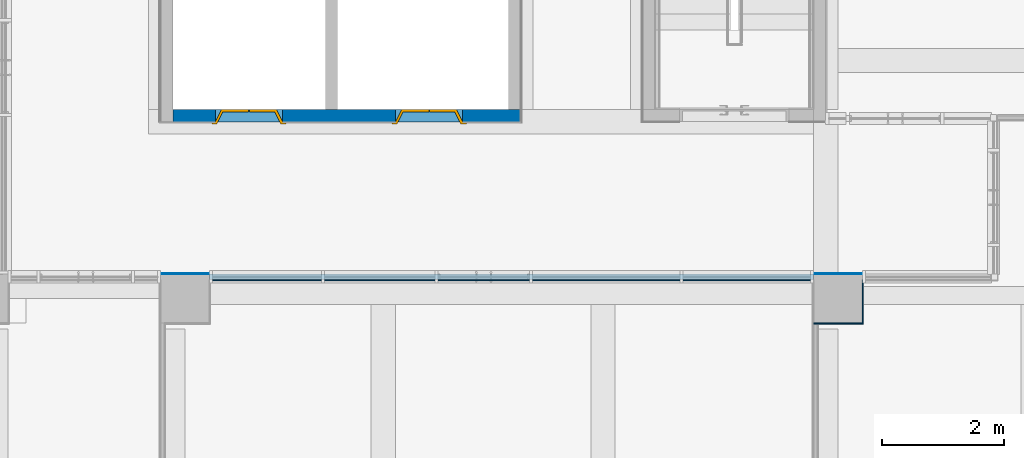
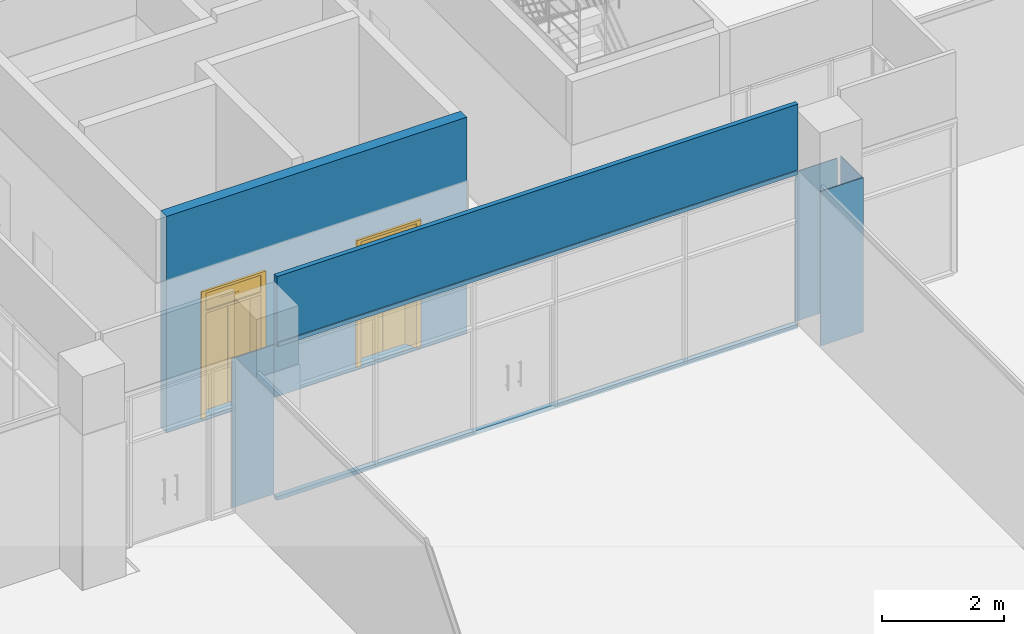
# One storey, part 47 of 74: 6 walls, 2 doors, 8 openings.
"""IFC2X3 building model written with IfcOpenShell, lengths in millimetres."""

from ifc_helpers import new_model, entity, si_unit, converted_unit, derived_unit, direction, frame, frame_2d, origin, origin_2d_with_axis, place, context, subcontext, project, spatial, polyline, rectangle, extrude, clip, bounded_halfspace, faceted_brep, source, transform, mapped, material, material_list, layer, layer_set, layer_usage, type_object, type_shapes, element, fill, save


model = new_model("IFC2X3")

# Units and contexts
model_context = context("Model", 3, precision=0.01, world=origin(), true_north=direction((6.123031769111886e-17, 1.0)))
body_context = subcontext(model_context, "Body", "Model", "MODEL_VIEW")
ifc_project = project(units=[si_unit("LENGTHUNIT", "METRE", prefix="MILLI"), si_unit("AREAUNIT", "SQUARE_METRE"), si_unit("VOLUMEUNIT", "CUBIC_METRE"), converted_unit("PLANEANGLEUNIT", "DEGREE", entity("IfcRatioMeasure", 0.017453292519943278), si_unit("PLANEANGLEUNIT", "RADIAN"), dimensions=[0, 0, 0, 0, 0, 0, 0]), si_unit("MASSUNIT", "GRAM", prefix="KILO"), derived_unit("MASSDENSITYUNIT", [(si_unit("MASSUNIT", "GRAM", prefix="KILO"), 1), (si_unit("LENGTHUNIT", "METRE"), -3)]), derived_unit("MOMENTOFINERTIAUNIT", [(si_unit("LENGTHUNIT", "METRE"), 4)]), si_unit("TIMEUNIT", "SECOND"), si_unit("FREQUENCYUNIT", "HERTZ"), si_unit("THERMODYNAMICTEMPERATUREUNIT", "DEGREE_CELSIUS"), derived_unit("THERMALTRANSMITTANCEUNIT", [(si_unit("MASSUNIT", "GRAM", prefix="KILO"), 1), (si_unit("THERMODYNAMICTEMPERATUREUNIT", "KELVIN"), -1), (si_unit("TIMEUNIT", "SECOND"), -3)]), derived_unit("VOLUMETRICFLOWRATEUNIT", [(si_unit("LENGTHUNIT", "METRE"), 3), (si_unit("TIMEUNIT", "SECOND"), -1)]), derived_unit("MASSFLOWRATEUNIT", [(si_unit("MASSUNIT", "GRAM", prefix="KILO"), 1), (si_unit("TIMEUNIT", "SECOND"), -1)]), derived_unit("ROTATIONALFREQUENCYUNIT", [(si_unit("TIMEUNIT", "SECOND"), -1)]), si_unit("ELECTRICCURRENTUNIT", "AMPERE"), si_unit("ELECTRICVOLTAGEUNIT", "VOLT"), si_unit("POWERUNIT", "WATT"), si_unit("FORCEUNIT", "NEWTON", prefix="KILO"), si_unit("ILLUMINANCEUNIT", "LUX"), si_unit("LUMINOUSFLUXUNIT", "LUMEN"), si_unit("LUMINOUSINTENSITYUNIT", "CANDELA"), derived_unit("USERDEFINED", [(si_unit("MASSUNIT", "GRAM", prefix="KILO"), -1), (si_unit("LENGTHUNIT", "METRE"), -2), (si_unit("TIMEUNIT", "SECOND"), 3), (si_unit("LUMINOUSFLUXUNIT", "LUMEN"), 1)]), derived_unit("SOUNDPOWERUNIT", [(si_unit("MASSUNIT", "GRAM", prefix="KILO"), 1), (si_unit("LENGTHUNIT", "METRE"), 2), (si_unit("TIMEUNIT", "SECOND"), -3)]), derived_unit("SOUNDPRESSUREUNIT", [(si_unit("MASSUNIT", "GRAM", prefix="KILO"), 1), (si_unit("LENGTHUNIT", "METRE"), -1), (si_unit("TIMEUNIT", "SECOND"), -2)]), derived_unit("LINEARVELOCITYUNIT", [(si_unit("LENGTHUNIT", "METRE"), 1), (si_unit("TIMEUNIT", "SECOND"), -1)]), si_unit("PRESSUREUNIT", "PASCAL"), derived_unit("USERDEFINED", [(si_unit("LENGTHUNIT", "METRE"), -2), (si_unit("MASSUNIT", "GRAM", prefix="KILO"), 1), (si_unit("TIMEUNIT", "SECOND"), -2)]), derived_unit("LINEARFORCEUNIT", [(si_unit("MASSUNIT", "GRAM", prefix="KILO"), 1), (si_unit("LENGTHUNIT", "METRE"), 1), (si_unit("TIMEUNIT", "SECOND"), -2), (si_unit("LENGTHUNIT", "METRE"), -1)]), derived_unit("PLANARFORCEUNIT", [(si_unit("MASSUNIT", "GRAM", prefix="KILO"), 1), (si_unit("LENGTHUNIT", "METRE"), 1), (si_unit("TIMEUNIT", "SECOND"), -2), (si_unit("LENGTHUNIT", "METRE"), -2)])], contexts=[model_context])

# Site, building, storey
site_placement = place(None, frame((-14167.972527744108, -657.2125860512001, 0.0)))
site = spatial("IfcSite", under=ifc_project, at=site_placement, Name="Default", CompositionType="ELEMENT")
building_placement = place(site_placement, origin())
building = spatial("IfcBuilding", under=site, at=building_placement, Name="Sample Building", CompositionType="ELEMENT")
storey_placement = place(building_placement, frame((0.0, 0.0, 4800.0)))
storey = spatial("IfcBuildingStorey", under=building, at=storey_placement, Name="지상 2층", CompositionType="ELEMENT", Elevation=4800.000000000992)

# Wall, openings, doors
ifc_material_1 = material(Name="KBIMS-콘크리트")
ifc_layer_1 = layer(ifc_material_1, 200.0)
ifc_layer_set_1 = layer_set([ifc_layer_1], Name="기본 벽:WA111-철근콘크리트구조 벽 200mm_CW1")
ifc_layer_usage_1 = layer_usage(ifc_layer_set_1, "AXIS2", "NEGATIVE", 100.0)
wall_type_1 = type_object("IfcWallType", Name="기본 벽:WA111-철근콘크리트구조 벽 200mm_CW1", PredefinedType="STANDARD", material=ifc_layer_set_1)
wall_1_placement = place(storey_placement, frame((35967.97249113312, 15653.302947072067, -1.9340006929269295e-09), z_axis=(0.0, 0.0, 1.0), x_axis=(-1.0, 0.0, 0.0)))
wall_1 = element("IfcWallStandardCase", 1, at=wall_1_placement, inside=storey, type_object=wall_type_1, material=ifc_layer_usage_1, Name="기본 벽:WA111-철근콘크리트구조 벽 200mm_CW1", ObjectType="기본 벽:WA111-철근콘크리트구조 벽 200mm_CW1", context=body_context, shape_type="Clipping", body=[
    clip(extrude(rectangle(XDim=5700.008729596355, YDim=200.0, at=frame_2d((2850.0043647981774, 9.308109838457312e-13), x_axis=(-1.0, 0.0))), origin(), (0.0, 0.0, 1.0), 4350.000000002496), bounded_halfspace(frame((0.0, -100.0, 4350.0), z_axis=(0.0, 0.0, -1.0), x_axis=(-1.0, 0.0, 0.0)), True, frame((0.0, -100.0, 4350.0), z_axis=(0.0, 0.0, -1.0), x_axis=(-1.0, 0.0, 0.0)), polyline([(0.0, 0.0), (0.0, 60960.0), (-1737362.660780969, 60960.0), (-1737362.660780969, -1.2258055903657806e-09), (-975359.9311308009, 0.0), (-914399.9311308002, 0.0), (-60960.0, 0.0), (0.0, 0.0)]))),
])
opening_1_placement = place(wall_1_placement, frame((2049.999909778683, 100.0, 80.0)))
opening_1 = element("IfcOpeningElement", 2, at=opening_1_placement, cuts=wall_1, Name="EE111-엘리베이터문(문):EE111-엘리베이터문(20인승)_1100x2550:1", ObjectType="Opening", context=body_context, shape_type="SweptSolid", body=[
    extrude(rectangle(XDim=2549.999999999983, YDim=1099.9999999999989, at=frame_2d((1274.9999999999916, 550.0000000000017), x_axis=(1.0, 0.0))), frame((0.0, 0.0, 0.0), z_axis=(0.0, -1.0, 0.0), x_axis=(0.0, 0.0, 1.0)), (0.0, 0.0, 1.0), 200.0),
])
opening_2_placement = place(wall_1_placement, frame((5000.923225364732, 100.0, 80.0)))
opening_2 = element("IfcOpeningElement", 3, at=opening_2_placement, cuts=wall_1, Name="EE111-엘리베이터문(문):EE111-엘리베이터문(20인승)_1100x2550:1", ObjectType="Opening", context=body_context, shape_type="SweptSolid", body=[
    extrude(rectangle(XDim=2549.999999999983, YDim=1099.9999999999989, at=frame_2d((1274.9999999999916, 550.0000000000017), x_axis=(1.0, 0.0))), frame((0.0, 0.0, 0.0), z_axis=(0.0, -1.0, 0.0), x_axis=(0.0, 0.0, 1.0)), (0.0, 0.0, 1.0), 200.0),
])
ifc_material_2 = material(Name="<Unnamed>")
ifc_material_list = material_list([ifc_material_2, ifc_material_2, ifc_material_2, ifc_material_2])
door_style = type_object("IfcDoorStyle", Name="EE111-엘리베이터문(문):EE111-엘리베이터문(20인승)_1100x2550", ConstructionType="NOTDEFINED", OperationType="DOUBLE_DOOR_SLIDING", ParameterTakesPrecedence=False, Sizeable=False, material=ifc_material_list)
shared_shape = source(origin(), body_context, "Body", "Brep", [
    faceted_brep([(-296.2736811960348, 220.43384628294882, 1175.0), (-313.5941892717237, 220.4338462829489, 1145.0), (-330.9146973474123, 220.43384628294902, 1175.0), (-296.2736811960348, 215.04269782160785, 1175.0), (-330.9146973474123, 215.0426978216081, 1175.0), (-313.5941892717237, 215.04269782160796, 1145.0)], [[[0, 1, 2]], [[3, 4, 5]], [[1, 0, 3, 5]], [[2, 1, 5, 4]], [[0, 2, 4, 3]]]),
    faceted_brep([(-330.9146973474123, 220.43384628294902, 1225.0), (-296.2736811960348, 220.43384628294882, 1225.0), (-296.2736811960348, 215.04269782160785, 1225.0), (-330.9146973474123, 215.04269782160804, 1225.0), (-313.5941892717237, 220.4338462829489, 1255.0), (-313.5941892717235, 215.04269782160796, 1255.0)], [[[0, 1, 2, 3]], [[4, 0, 3, 5]], [[1, 4, 5, 2]], [[2, 5, 3]], [[1, 0, 4]]]),
    faceted_brep([(-351.5567877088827, 215.0426978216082, 1277.0326998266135), (-275.63159083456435, 215.04269782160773, 1277.0326998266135), (-275.63159083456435, 215.04269782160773, 1122.967300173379), (-351.5567877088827, 215.0426978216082, 1122.967300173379), (-351.55678770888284, 200.0, 1277.0326998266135), (-351.55678770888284, 200.0, 1122.967300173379), (-275.6315908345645, 200.0, 1122.967300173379), (-275.6315908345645, 200.0, 1277.0326998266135)], [[[0, 1, 2, 3]], [[4, 5, 6, 7]], [[1, 0, 4, 7]], [[2, 1, 7, 6]], [[3, 2, 6, 5]], [[0, 3, 5, 4]]]),
    faceted_brep([(-60.0, 200.0, 2550.0), (-60.0, 240.0, 2550.0), (-60.0, 240.0, 0.0), (-60.0, 200.0, 0.0), (703.014298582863, 240.0, 2550.0), (703.014298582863, 240.0, 2500.0), (27.911234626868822, 240.0, 2500.0), (27.911234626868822, 240.0, 2150.0), (703.014298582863, 240.0, 2150.0), (703.014298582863, 240.0, 2100.0), (27.911234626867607, 240.0, 2100.0), (27.911234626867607, 240.0, 0.0), (978.5926496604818, 40.0, 0.0), (1078.5926496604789, 240.0, 0.0), (1160.0, 240.0, 0.0), (1160.0, 200.0, 0.0), (1100.0, 200.0, 0.0), (1000.0, 0.0, 0.0), (555.0, 0.0, 0.0), (555.0, 40.0, 0.0), (0.0, 200.0, 2550.0), (0.0, 200.0, 0.0), (100.0, 0.0, 2550.0), (100.0, 0.0, 0.0), (1000.0, 0.0, 2550.0), (545.0, 0.0, 0.0), (545.0, 0.0, 2100.0), (555.0, 0.0, 2100.0), (545.0, 40.0, 0.0), (545.0, 40.0, 2100.0), (555.0, 40.0, 2100.0), (1100.0, 200.0, 2550.0), (1160.0, 200.0, 2550.0), (1160.0, 240.0, 2550.0), (1078.5926496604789, 240.0, 2100.0), (1078.5926496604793, 240.0, 2150.0), (1078.5926496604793, 240.0, 2500.0), (978.5926496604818, 40.0, 2100.0), (127.91123462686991, 40.0, 0.0), (127.91123462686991, 40.0, 2100.0), (1078.5926496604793, 214.08728771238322, 2150.0), (1078.5926496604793, 214.08728771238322, 2500.0), (27.911234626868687, 214.0872877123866, 2500.0), (27.911234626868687, 214.0872877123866, 2150.0), (550.0, 214.08728771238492, 2370.0), (410.8272722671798, 214.08728771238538, 2370.0), (410.8272722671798, 214.08728771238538, 2300.0), (550.0, 214.08728771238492, 2300.0), (789.172727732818, 214.08728771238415, 2300.0), (789.172727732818, 214.08728771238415, 2370.0), (550.0, 208.4787281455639, 2370.0), (410.8272722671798, 208.47872814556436, 2370.0), (410.8272722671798, 208.47872814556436, 2300.0), (789.172727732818, 208.47872814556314, 2300.0), (789.172727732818, 208.47872814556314, 2370.0), (550.0, 208.4787281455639, 2300.0)], [[[0, 1, 2, 3]], [[2, 1, 4, 5, 6, 7, 8, 9, 10, 11]], [[12, 13, 14, 15, 16, 17, 18, 19]], [[20, 0, 3, 21]], [[22, 20, 21, 23]], [[24, 22, 23, 25, 26, 27, 18, 17]], [[25, 28, 29, 26]], [[19, 18, 27, 30]], [[31, 24, 17, 16]], [[32, 31, 16, 15]], [[33, 32, 15, 14]], [[4, 33, 14, 13, 34, 9, 8, 35, 36, 5]], [[13, 12, 37, 34]], [[38, 11, 10, 39]], [[38, 39, 29, 28]], [[37, 12, 19, 30]], [[1, 0, 20, 22, 24, 31, 32, 33, 4]], [[40, 41, 36, 35]], [[41, 42, 6, 5, 36]], [[42, 43, 7, 6]], [[43, 42, 41, 40], [44, 45, 46, 47, 48, 49]], [[50, 51, 45, 44]], [[51, 52, 46, 45]], [[53, 54, 49, 48]], [[54, 50, 44, 49]], [[50, 54, 53, 55, 52, 51]], [[10, 9, 34, 37, 30, 27, 26, 29, 39]], [[43, 40, 35, 8, 7]], [[52, 55, 47, 46]], [[55, 53, 48, 47]], [[21, 3, 2, 11, 38, 28, 25, 23]]]),
])
type_shapes(door_style, [shared_shape])
door_1_placement = place(opening_2_placement, frame((-1100.0, -200.0, 1.9335857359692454e-09)))
door_1 = element("IfcDoor", 4, at=door_1_placement, inside=storey, type_object=door_style, material=ifc_material_2, Name="EE111-엘리베이터문(문):EE111-엘리베이터문(20인승)_1100x2550", ObjectType="EE111-엘리베이터문(문):EE111-엘리베이터문(20인승)_1100x2550", OverallHeight=2549.999999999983, OverallWidth=1100.0000000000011, context=body_context, shape_type="MappedRepresentation", body=[
    mapped(shared_shape, transform((0.0, 0.0, 0.0), scale=1.0)),
])
fill(opening_2, door_1)
door_2_placement = place(opening_1_placement, frame((-1100.0, -200.0, 1.9335857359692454e-09)))
door_2 = element("IfcDoor", 5, at=door_2_placement, inside=storey, type_object=door_style, material=ifc_material_2, Name="EE111-엘리베이터문(문):EE111-엘리베이터문(20인승)_1100x2550", ObjectType="EE111-엘리베이터문(문):EE111-엘리베이터문(20인승)_1100x2550", OverallHeight=2549.999999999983, OverallWidth=1100.0000000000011, context=body_context, shape_type="MappedRepresentation", body=[
    mapped(shared_shape, transform((0.0, 0.0, 0.0), scale=1.0)),
])
fill(opening_1, door_2)

# Wall, openings
ifc_material_3 = material(Name="KBIMS-시멘트 벽돌")
ifc_layer_2 = layer(ifc_material_3, 90.0)
ifc_layer_set_2 = layer_set([ifc_layer_2], Name="기본 벽:WA211-시멘트벽돌(일반) 벽 (0.5B) 90mm")
ifc_layer_usage_2 = layer_usage(ifc_layer_set_2, "AXIS2", "NEGATIVE", 45.0)
wall_type_2 = type_object("IfcWallType", Name="기본 벽:WA211-시멘트벽돌(일반) 벽 (0.5B) 90mm", PredefinedType="STANDARD", material=ifc_layer_set_2)
wall_2_placement = place(storey_placement, frame((30867.97249113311, 13012.21258605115, -1.9340006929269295e-09)))
wall_2 = element("IfcWallStandardCase", 6, at=wall_2_placement, inside=storey, type_object=wall_type_2, material=ifc_layer_usage_2, Name="기본 벽:WA211-시멘트벽돌(일반) 벽 (0.5B) 90mm", ObjectType="기본 벽:WA211-시멘트벽돌(일반) 벽 (0.5B) 90mm", context=body_context, shape_type="SweptSolid", body=[
    extrude(rectangle(XDim=9899.999999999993, YDim=89.99999999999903, at=frame_2d((4949.999999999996, 1.552535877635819e-12), x_axis=(-1.0, 0.0))), origin(), (0.0, 0.0, 1.0), 4500.0000000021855),
])
opening_3_placement = place(wall_2_placement, origin())
element("IfcOpeningElement", 7, at=opening_3_placement, cuts=wall_2, Name="기본 벽:WA211-시멘트벽돌(일반) 벽 (0.5B) 90mm", ObjectType="Opening", context=body_context, shape_type="SweptSolid", body=[
    extrude(rectangle(XDim=3020.000000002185, YDim=9899.999999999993, at=origin_2d_with_axis()), frame((4950.0, -197.39999999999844, 1590.0), z_axis=(0.0, 1.0, 0.0), x_axis=(0.0, 0.0, 1.0)), (0.0, 0.0, 1.0), 394.79999999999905),
])
opening_4_placement = place(wall_2_placement, origin())
element("IfcOpeningElement", 8, at=opening_4_placement, cuts=wall_2, Name="기본 벽:WA211-시멘트벽돌(일반) 벽 (0.5B) 90mm", ObjectType="Opening", context=body_context, shape_type="SweptSolid", body=[
    extrude(rectangle(XDim=3020.000000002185, YDim=2499.9747997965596, at=frame_2d((-2.1600499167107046e-12, 0.0), x_axis=(0.0, 1.0))), frame((-2050.004776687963, -197.39999999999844, 1590.0), z_axis=(0.0, 1.0, 0.0), x_axis=(-1.0, 0.0, 0.0)), (0.0, 0.0, 1.0), 394.79999999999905),
])
opening_5_placement = place(wall_2_placement, origin())
element("IfcOpeningElement", 9, at=opening_5_placement, cuts=wall_2, Name="기본 벽:WA211-시멘트벽돌(일반) 벽 (0.5B) 90mm", ObjectType="Opening", context=body_context, shape_type="SweptSolid", body=[
    extrude(rectangle(XDim=3020.000000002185, YDim=2217.999999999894, at=origin_2d_with_axis()), frame((11809.0, -197.39999999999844, 1590.0), z_axis=(0.0, 1.0, 0.0), x_axis=(0.0, 0.0, 1.0)), (0.0, 0.0, 1.0), 394.79999999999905),
])

ifc_material_4 = material(Name="WA611-수성페인트 (내부) 벽 (3회)")
ifc_layer_3 = layer(ifc_material_4, 1.0)
ifc_material_5 = material(Name="WA551-시멘트모르타르 (내부) 벽 18mm")
ifc_layer_4 = layer(ifc_material_5, 16.0)
ifc_material_6 = material(Name="WA555-콘크리트면정리 벽 (내부)")
ifc_layer_5 = layer(ifc_material_6, 1.0)
ifc_layer_set_3 = layer_set([ifc_layer_3, ifc_layer_4, ifc_layer_5], Name="기본 벽:A1-32-06A-콘크리트면정리, 시멘트모르타르(미장용), 수성페인트(내부) (18mm)")
ifc_layer_usage_3 = layer_usage(ifc_layer_set_3, "AXIS2", "POSITIVE", -9.000000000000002)
wall_type_3 = type_object("IfcWallType", Name="기본 벽:A1-32-06A-콘크리트면정리, 시멘트모르타르(미장용), 수성페인트(내부) (18mm)", PredefinedType="STANDARD", material=ifc_layer_set_3)
wall_3_placement = place(storey_placement, frame((30885.972463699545, 12958.21258605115, 3100.0)))
wall_3 = element("IfcWallStandardCase", 10, at=wall_3_placement, inside=storey, type_object=wall_type_3, material=ifc_layer_usage_3, Name="기본 벽:A1-32-06A-콘크리트면정리, 시멘트모르타르(미장용), 수성페인트(내부) (18mm)", ObjectType="기본 벽:A1-32-06A-콘크리트면정리, 시멘트모르타르(미장용), 수성페인트(내부) (18mm)", context=body_context, shape_type="SweptSolid", body=[
    extrude(rectangle(XDim=9863.982678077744, YDim=18.000000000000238, at=frame_2d((4931.991339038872, 5.258016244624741e-13), x_axis=(1.0, 0.0))), origin(), (0.0, 0.0, 1.0), 79.99999999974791),
])
opening_6_placement = place(wall_3_placement, origin())
element("IfcOpeningElement", 11, at=opening_6_placement, cuts=wall_3, Name="기본 벽:A1-32-06A-콘크리트면정리, 시멘트모르타르(미장용), 수성페인트(내부) (18mm)", ObjectType="Opening", context=body_context, shape_type="SweptSolid", body=[
    extrude(rectangle(XDim=3020.000000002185, YDim=9899.999999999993, at=origin_2d_with_axis()), frame((4932.0000274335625, -161.39999999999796, -1510.0), z_axis=(0.0, 1.0, 0.0), x_axis=(0.0, 0.0, 1.0)), (0.0, 0.0, 1.0), 322.80000000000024),
])
opening_7_placement = place(wall_3_placement, origin())
element("IfcOpeningElement", 12, at=opening_7_placement, cuts=wall_3, Name="기본 벽:A1-32-06A-콘크리트면정리, 시멘트모르타르(미장용), 수성페인트(내부) (18mm)", ObjectType="Opening", context=body_context, shape_type="SweptSolid", body=[
    extrude(rectangle(XDim=3020.000000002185, YDim=2499.9747997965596, at=frame_2d((-2.1600499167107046e-12, 0.0), x_axis=(0.0, 1.0))), frame((-2068.0047492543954, -161.40000000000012, -1510.0), z_axis=(0.0, 1.0, 0.0), x_axis=(-1.0, 0.0, 0.0)), (0.0, 0.0, 1.0), 322.80000000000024),
])
opening_8_placement = place(wall_3_placement, origin())
element("IfcOpeningElement", 13, at=opening_8_placement, cuts=wall_3, Name="기본 벽:A1-32-06A-콘크리트면정리, 시멘트모르타르(미장용), 수성페인트(내부) (18mm)", ObjectType="Opening", context=body_context, shape_type="SweptSolid", body=[
    extrude(rectangle(XDim=3020.000000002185, YDim=2217.999999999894, at=origin_2d_with_axis()), frame((11791.000027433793, -161.39999999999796, -1510.0), z_axis=(0.0, 1.0, 0.0), x_axis=(0.0, 0.0, 1.0)), (0.0, 0.0, 1.0), 322.80000000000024),
])

# Walls
ifc_layer_usage_4 = layer_usage(ifc_layer_set_3, "AXIS2", "POSITIVE", -9.000000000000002)
wall_4_placement = place(storey_placement, frame((40767.95514177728, 12248.212307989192, 80.0)))
element("IfcWallStandardCase", 14, at=wall_4_placement, inside=storey, type_object=wall_type_3, material=ifc_layer_usage_4, Name="기본 벽:A1-32-06A-콘크리트면정리, 시멘트모르타르(미장용), 수성페인트(내부) (18mm)", ObjectType="기본 벽:A1-32-06A-콘크리트면정리, 시멘트모르타르(미장용), 수성페인트(내부) (18mm)", context=body_context, shape_type="SweptSolid", body=[
    extrude(rectangle(XDim=818.0173493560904, YDim=18.000000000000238, at=frame_2d((409.0086746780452, 0.0), x_axis=(-1.0, 0.0))), origin(), (0.0, 0.0, 1.0), 3100.0000000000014),
])
ifc_layer_usage_5 = layer_usage(ifc_layer_set_3, "AXIS2", "POSITIVE", -9.000000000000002)
wall_5_placement = place(storey_placement, frame((41576.972491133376, 12257.212307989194, 80.0), z_axis=(0.0, 0.0, 1.0), x_axis=(0.0, 1.0, 0.0)))
element("IfcWallStandardCase", 15, at=wall_5_placement, inside=storey, type_object=wall_type_3, material=ifc_layer_usage_5, Name="기본 벽:A1-32-06A-콘크리트면정리, 시멘트모르타르(미장용), 수성페인트(내부) (18mm)", ObjectType="기본 벽:A1-32-06A-콘크리트면정리, 시멘트모르타르(미장용), 수성페인트(내부) (18mm)", context=body_context, shape_type="SweptSolid", body=[
    extrude(rectangle(XDim=709.9825704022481, YDim=17.999999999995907, at=frame_2d((354.9912852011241, 0.0), x_axis=(-1.0, 0.0))), origin(), (0.0, 0.0, 1.0), 3100.0000000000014),
])
wall_6_placement = place(storey_placement, frame((30067.95511434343, 13066.212307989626, 80.0)))
element("IfcWall", 16, at=wall_6_placement, inside=storey, type_object=wall_type_3, Name="기본 벽:A1-32-06A-콘크리트면정리, 시멘트모르타르(미장용), 수성페인트(내부) (18mm)", ObjectType="기본 벽:A1-32-06A-콘크리트면정리, 시멘트모르타르(미장용), 수성페인트(내부) (18mm)", context=body_context, shape_type="SweptSolid", body=[
    extrude(rectangle(XDim=800.0173767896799, YDim=18.000000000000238, at=frame_2d((2.1600499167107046e-12, -1.0826894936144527e-12), x_axis=(1.0, 0.0))), frame((400.0086883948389, 0.0, 0.0)), (0.0, 0.0, 1.0), 3000.000000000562),
    extrude(rectangle(XDim=800.0000000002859, YDim=18.000000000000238, at=frame_2d((0.0, -1.0826894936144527e-12), x_axis=(1.0, 0.0))), frame((11100.017376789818, 0.0, 0.0)), (0.0, 0.0, 1.0), 3000.000000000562),
])

save(model, "model.ifc")
